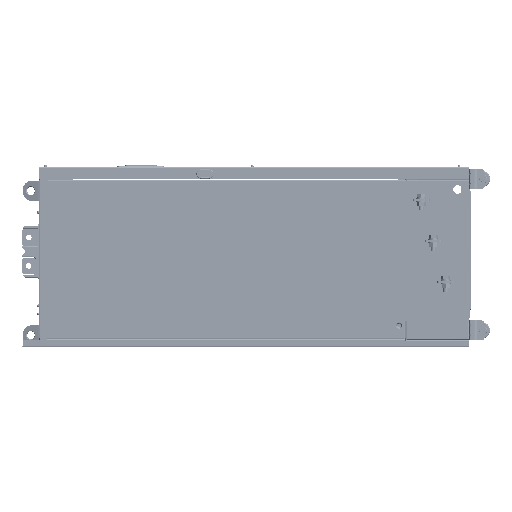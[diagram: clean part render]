
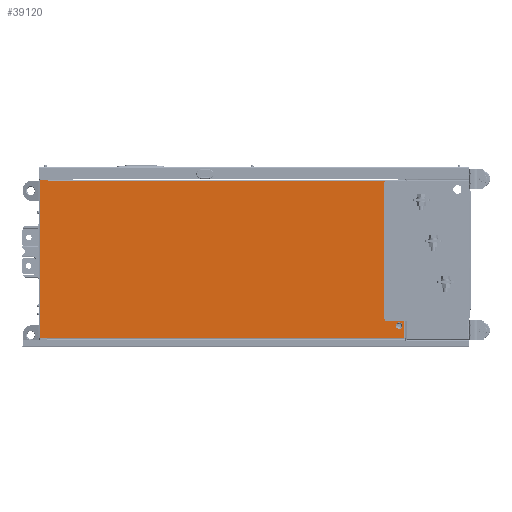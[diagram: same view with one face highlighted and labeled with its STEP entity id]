
A CAD part, left-side view. The second image highlights one B-rep face of the part: STEP entity #39120.
In plain terms, the highlighted planar face has unit normal (-1, 0, 0).
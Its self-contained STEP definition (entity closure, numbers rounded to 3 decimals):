
#36698=DIRECTION('',(0.,1.,0.));
#36699=VECTOR('',#36698,3.5);
#36700=CARTESIAN_POINT('',(-1.5,-238.,522.2));
#36701=LINE('',#36700,#36699);
#36705=CARTESIAN_POINT('',(-1.5,199.5,-529.7));
#36706=DIRECTION('',(-1.,0.,0.));
#36707=DIRECTION('',(0.,1.,-0.013));
#36708=AXIS2_PLACEMENT_3D('',#36705,#36706,#36707);
#36713=CARTESIAN_POINT('',(-1.5,199.5,-529.7));
#36714=DIRECTION('',(-1.,0.,0.));
#36715=DIRECTION('',(0.,-1.,0.013));
#36716=AXIS2_PLACEMENT_3D('',#36713,#36714,#36715);
#36721=CARTESIAN_POINT('',(-1.5,-205.5,-529.7));
#36722=DIRECTION('',(-1.,0.,0.));
#36723=DIRECTION('',(0.,1.,-0.013));
#36724=AXIS2_PLACEMENT_3D('',#36721,#36722,#36723);
#36729=CARTESIAN_POINT('',(-1.5,-205.5,-529.7));
#36730=DIRECTION('',(-1.,0.,0.));
#36731=DIRECTION('',(0.,-1.,0.013));
#36732=AXIS2_PLACEMENT_3D('',#36729,#36730,#36731);
#36744=DIRECTION('',(0.,-1.,0.));
#36745=VECTOR('',#36744,472.5);
#36746=CARTESIAN_POINT('',(-1.5,238.,-545.7));
#36747=LINE('',#36746,#36745);
#37447=DIRECTION('',(0.,0.,-1.));
#37448=VECTOR('',#37447,21.5);
#37449=CARTESIAN_POINT('',(-1.5,238.,547.2));
#37450=LINE('',#37449,#37448);
#37583=DIRECTION('',(0.,0.,1.));
#37584=VECTOR('',#37583,25.);
#37585=CARTESIAN_POINT('',(-1.5,-238.,522.2));
#37586=LINE('',#37585,#37584);
#37817=DIRECTION('',(0.,0.,1.));
#37818=VECTOR('',#37817,1067.9);
#37819=CARTESIAN_POINT('',(-1.5,-234.5,-545.7));
#37820=LINE('',#37819,#37818);
#37868=DIRECTION('',(0.,1.,0.));
#37869=VECTOR('',#37868,476.);
#37870=CARTESIAN_POINT('',(-1.5,-238.,547.2));
#37871=LINE('',#37870,#37869);
#38091=DIRECTION('',(0.,0.,-1.));
#38092=VECTOR('',#38091,1071.4);
#38093=CARTESIAN_POINT('',(-1.5,238.,525.7));
#38094=LINE('',#38093,#38092);
#38397=CARTESIAN_POINT('',(-1.5,-215.297,-529.57));
#38398=CARTESIAN_POINT('',(-1.5,-215.297,-529.583));
#38399=CARTESIAN_POINT('',(-1.5,-215.297,-529.612));
#38400=CARTESIAN_POINT('',(-1.5,-215.297,-529.656));
#38401=CARTESIAN_POINT('',(-1.5,-215.297,-529.685));
#38402=CARTESIAN_POINT('',(-1.5,-215.297,-529.7));
#38423=CARTESIAN_POINT('',(-1.5,-195.703,-529.83));
#38424=CARTESIAN_POINT('',(-1.5,-195.703,-529.817));
#38425=CARTESIAN_POINT('',(-1.5,-195.703,-529.788));
#38426=CARTESIAN_POINT('',(-1.5,-195.703,-529.744));
#38427=CARTESIAN_POINT('',(-1.5,-195.703,-529.715));
#38428=CARTESIAN_POINT('',(-1.5,-195.703,-529.699));
#38695=CARTESIAN_POINT('',(-1.5,189.703,-529.57));
#38696=CARTESIAN_POINT('',(-1.5,189.703,-529.583));
#38697=CARTESIAN_POINT('',(-1.5,189.703,-529.612));
#38698=CARTESIAN_POINT('',(-1.5,189.703,-529.656));
#38699=CARTESIAN_POINT('',(-1.5,189.703,-529.685));
#38700=CARTESIAN_POINT('',(-1.5,189.703,-529.7));
#38721=CARTESIAN_POINT('',(-1.5,209.297,-529.83));
#38722=CARTESIAN_POINT('',(-1.5,209.297,-529.817));
#38723=CARTESIAN_POINT('',(-1.5,209.297,-529.788));
#38724=CARTESIAN_POINT('',(-1.5,209.297,-529.744));
#38725=CARTESIAN_POINT('',(-1.5,209.297,-529.715));
#38726=CARTESIAN_POINT('',(-1.5,209.297,-529.699));
#38761=CARTESIAN_POINT('',(-1.5,238.,-545.7));
#38762=CARTESIAN_POINT('',(-1.5,-234.5,-545.7));
#38763=VERTEX_POINT('',#38761);
#38764=VERTEX_POINT('',#38762);
#38765=CARTESIAN_POINT('',(-1.5,238.,525.7));
#38766=VERTEX_POINT('',#38765);
#38767=CARTESIAN_POINT('',(-1.5,238.,547.2));
#38768=VERTEX_POINT('',#38767);
#38769=CARTESIAN_POINT('',(-1.5,-238.,547.2));
#38770=VERTEX_POINT('',#38769);
#38771=CARTESIAN_POINT('',(-1.5,-238.,522.2));
#38772=VERTEX_POINT('',#38771);
#38773=CARTESIAN_POINT('',(-1.5,-234.5,522.2));
#38774=VERTEX_POINT('',#38773);
#38775=VERTEX_POINT('',#38721);
#38776=VERTEX_POINT('',#38726);
#38777=CARTESIAN_POINT('',(-1.5,189.703,-529.701));
#38778=VERTEX_POINT('',#38777);
#38779=VERTEX_POINT('',#38695);
#38780=VERTEX_POINT('',#38423);
#38781=VERTEX_POINT('',#38428);
#38782=CARTESIAN_POINT('',(-1.5,-215.297,-529.701));
#38783=VERTEX_POINT('',#38782);
#38784=VERTEX_POINT('',#38397);
#39079=CARTESIAN_POINT('',(-1.5,0.,0.));
#39080=DIRECTION('',(1.,0.,0.));
#39081=DIRECTION('',(0.,-1.,0.));
#39082=AXIS2_PLACEMENT_3D('',#39079,#39080,#39081);
#39083=PLANE('',#39082);
#39085=ORIENTED_EDGE('',*,*,#39084,.F.);
#39087=ORIENTED_EDGE('',*,*,#39086,.F.);
#39089=ORIENTED_EDGE('',*,*,#39088,.F.);
#39091=ORIENTED_EDGE('',*,*,#39090,.F.);
#39093=ORIENTED_EDGE('',*,*,#39092,.F.);
#39095=ORIENTED_EDGE('',*,*,#39094,.T.);
#39097=ORIENTED_EDGE('',*,*,#39096,.F.);
#39098=EDGE_LOOP('',(#39085,#39087,#39089,#39091,#39093,#39095,#39097));
#39099=FACE_OUTER_BOUND('',#39098,.F.);
#39101=ORIENTED_EDGE('',*,*,#39100,.F.);
#39103=ORIENTED_EDGE('',*,*,#39102,.T.);
#39105=ORIENTED_EDGE('',*,*,#39104,.F.);
#39107=ORIENTED_EDGE('',*,*,#39106,.T.);
#39108=EDGE_LOOP('',(#39101,#39103,#39105,#39107));
#39109=FACE_BOUND('',#39108,.F.);
#39111=ORIENTED_EDGE('',*,*,#39110,.F.);
#39113=ORIENTED_EDGE('',*,*,#39112,.T.);
#39115=ORIENTED_EDGE('',*,*,#39114,.F.);
#39117=ORIENTED_EDGE('',*,*,#39116,.T.);
#39118=EDGE_LOOP('',(#39111,#39113,#39115,#39117));
#39119=FACE_BOUND('',#39118,.F.);
#36709=CIRCLE('',#36708,9.797);
#36717=CIRCLE('',#36716,9.797);
#36725=CIRCLE('',#36724,9.797);
#36733=CIRCLE('',#36732,9.797);
#38403=B_SPLINE_CURVE_WITH_KNOTS('',3,(#38397,#38398,#38399,#38400,#38401,
#38402),.UNSPECIFIED.,.F.,.F.,(4,1,1,4),(0.,0.333,
0.667,1.),.UNSPECIFIED.);
#38429=B_SPLINE_CURVE_WITH_KNOTS('',3,(#38423,#38424,#38425,#38426,#38427,
#38428),.UNSPECIFIED.,.F.,.F.,(4,1,1,4),(0.,0.333,
0.667,1.),.UNSPECIFIED.);
#38701=B_SPLINE_CURVE_WITH_KNOTS('',3,(#38695,#38696,#38697,#38698,#38699,
#38700),.UNSPECIFIED.,.F.,.F.,(4,1,1,4),(0.,0.333,
0.667,1.),.UNSPECIFIED.);
#38727=B_SPLINE_CURVE_WITH_KNOTS('',3,(#38721,#38722,#38723,#38724,#38725,
#38726),.UNSPECIFIED.,.F.,.F.,(4,1,1,4),(0.,0.333,
0.667,1.),.UNSPECIFIED.);
#39084=EDGE_CURVE('',#38763,#38764,#36747,.T.);
#39086=EDGE_CURVE('',#38766,#38763,#38094,.T.);
#39088=EDGE_CURVE('',#38768,#38766,#37450,.T.);
#39090=EDGE_CURVE('',#38770,#38768,#37871,.T.);
#39092=EDGE_CURVE('',#38772,#38770,#37586,.T.);
#39094=EDGE_CURVE('',#38772,#38774,#36701,.T.);
#39096=EDGE_CURVE('',#38764,#38774,#37820,.T.);
#39100=EDGE_CURVE('',#38775,#38776,#38727,.T.);
#39102=EDGE_CURVE('',#38775,#38778,#36709,.T.);
#39104=EDGE_CURVE('',#38779,#38778,#38701,.T.);
#39106=EDGE_CURVE('',#38779,#38776,#36717,.T.);
#39110=EDGE_CURVE('',#38780,#38781,#38429,.T.);
#39112=EDGE_CURVE('',#38780,#38783,#36725,.T.);
#39114=EDGE_CURVE('',#38784,#38783,#38403,.T.);
#39116=EDGE_CURVE('',#38784,#38781,#36733,.T.);
#39120=ADVANCED_FACE('',(#39099,#39109,#39119),#39083,.F.);
